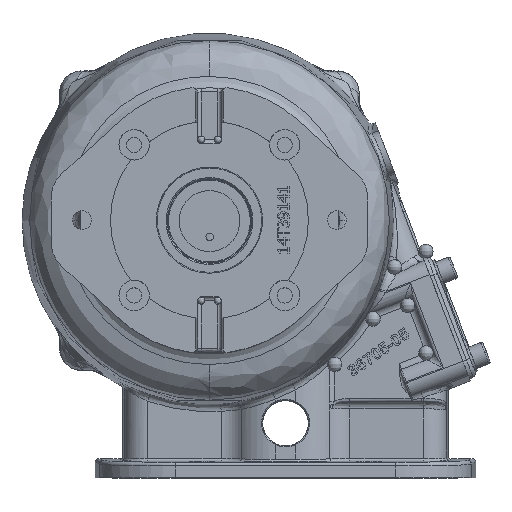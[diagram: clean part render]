
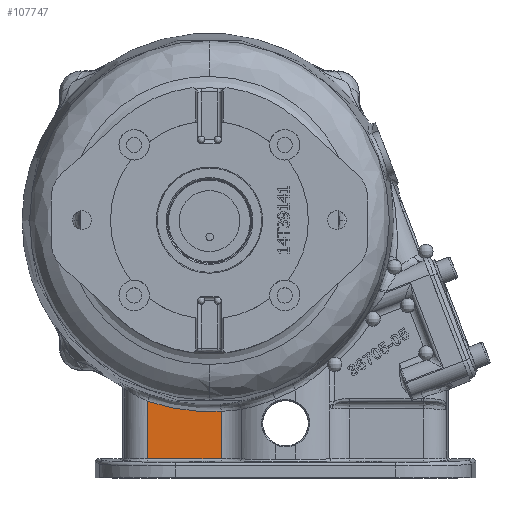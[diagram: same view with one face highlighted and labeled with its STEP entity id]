
A CAD part, top view. The second image highlights one B-rep face of the part: STEP entity #107747.
In plain terms, the highlighted planar face has unit normal (0, 0, 1).
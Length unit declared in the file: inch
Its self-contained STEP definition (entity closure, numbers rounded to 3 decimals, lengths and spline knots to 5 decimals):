
#3252 = EDGE_CURVE ( 'NONE', #27491, #96114, #20985, .T. ) ;
#5675 = CARTESIAN_POINT ( 'NONE',  ( -1.79703, 0.23792, 1.63 ) ) ;
#7178 = CARTESIAN_POINT ( 'NONE',  ( -1.92265, 0.26353, 1.63 ) ) ;
#14381 = DIRECTION ( 'NONE',  ( -1., 0., 0. ) ) ;
#17235 = CARTESIAN_POINT ( 'NONE',  ( -1.33818, 0.19185, 1.63 ) ) ;
#17577 = DIRECTION ( 'NONE',  ( 0., 0., -1. ) ) ;
#18724 = CARTESIAN_POINT ( 'NONE',  ( -1.96025, 0.27202, 1.63 ) ) ;
#19484 = CARTESIAN_POINT ( 'NONE',  ( -2.26681, 0.35989, 1.63 ) ) ;
#20985 = B_SPLINE_CURVE_WITH_KNOTS ( 'NONE', 3,
 ( #36474, #112554, #31773, #100263, #31011, #17235, #77177, #42542, #53338, #135679, #5675, #75686, #7178, #52596, #18724, #65638, #123386, #19484 ),
 .UNSPECIFIED., .F., .F.,
 ( 4, 1, 1, 2, 2, 2, 1, 1, 2, 2, 4 ),
 ( 0., 0.125, 0.1875, 0.21875, 0.25, 0.5, 0.625, 0.6875, 0.71875, 0.75, 1. ),
 .UNSPECIFIED. ) ;
#21646 = CARTESIAN_POINT ( 'NONE',  ( -2.26681, -0.58422, 1.63 ) ) ;
#24747 = DIRECTION ( 'NONE',  ( 0., 1., 0. ) ) ;
#27491 = VERTEX_POINT ( 'NONE', #120603 ) ;
#29123 = CARTESIAN_POINT ( 'NONE',  ( 0.56765, 0.95673, 1.63 ) ) ;
#29182 = VECTOR ( 'NONE', #24747, 39.37008 ) ;
#31011 = CARTESIAN_POINT ( 'NONE',  ( -1.31266, 0.19124, 1.63 ) ) ;
#31773 = CARTESIAN_POINT ( 'NONE',  ( -1.18509, 0.19058, 1.63 ) ) ;
#34761 = LINE ( 'NONE', #140893, #29182 ) ;
#36247 = LINE ( 'NONE', #128617, #150188 ) ;
#36474 = CARTESIAN_POINT ( 'NONE',  ( -1.05758, 0.19654, 1.63 ) ) ;
#41379 = DIRECTION ( 'NONE',  ( -1., 0., 0. ) ) ;
#41956 = EDGE_LOOP ( 'NONE', ( #45198, #90609, #66846, #75310 ) ) ;
#42542 = CARTESIAN_POINT ( 'NONE',  ( -1.46629, 0.19642, 1.63 ) ) ;
#45198 = ORIENTED_EDGE ( 'NONE', *, *, #3252, .T. ) ;
#52596 = CARTESIAN_POINT ( 'NONE',  ( -1.94768, 0.26913, 1.63 ) ) ;
#53338 = CARTESIAN_POINT ( 'NONE',  ( -1.56849, 0.20515, 1.63 ) ) ;
#65638 = CARTESIAN_POINT ( 'NONE',  ( -2.07208, 0.29848, 1.63 ) ) ;
#66101 = EDGE_CURVE ( 'NONE', #75603, #96114, #36247, .T. ) ;
#66846 = ORIENTED_EDGE ( 'NONE', *, *, #124368, .F. ) ;
#75310 = ORIENTED_EDGE ( 'NONE', *, *, #122917, .T. ) ;
#75603 = VERTEX_POINT ( 'NONE', #21646 ) ;
#75686 = CARTESIAN_POINT ( 'NONE',  ( -1.88505, 0.25536, 1.63 ) ) ;
#77177 = CARTESIAN_POINT ( 'NONE',  ( -1.35089, 0.19223, 1.63 ) ) ;
#87579 = FACE_OUTER_BOUND ( 'NONE', #41956, .T. ) ;
#90609 = ORIENTED_EDGE ( 'NONE', *, *, #66101, .F. ) ;
#95135 = VERTEX_POINT ( 'NONE', #135626 ) ;
#95931 = LINE ( 'NONE', #129809, #149599 ) ;
#96114 = VERTEX_POINT ( 'NONE', #127053 ) ;
#99115 = PLANE ( 'NONE',  #145545 ) ;
#100263 = CARTESIAN_POINT ( 'NONE',  ( -1.27438, 0.19055, 1.63 ) ) ;
#107747 = ADVANCED_FACE ( 'NONE', ( #87579 ), #99115, .F. ) ;
#112554 = CARTESIAN_POINT ( 'NONE',  ( -1.10858, 0.19341, 1.63 ) ) ;
#120603 = CARTESIAN_POINT ( 'NONE',  ( -1.05758, 0.19654, 1.63 ) ) ;
#122917 = EDGE_CURVE ( 'NONE', #95135, #27491, #34761, .T. ) ;
#123386 = CARTESIAN_POINT ( 'NONE',  ( -2.17013, 0.32679, 1.63 ) ) ;
#124368 = EDGE_CURVE ( 'NONE', #95135, #75603, #95931, .T. ) ;
#127053 = CARTESIAN_POINT ( 'NONE',  ( -2.26681, 0.35989, 1.63 ) ) ;
#128617 = CARTESIAN_POINT ( 'NONE',  ( -2.26681, 0.78184, 1.63 ) ) ;
#129809 = CARTESIAN_POINT ( 'NONE',  ( 0.28382, -0.58422, 1.63 ) ) ;
#135626 = CARTESIAN_POINT ( 'NONE',  ( -1.05758, -0.58422, 1.63001 ) ) ;
#135679 = CARTESIAN_POINT ( 'NONE',  ( -1.72107, 0.22576, 1.63 ) ) ;
#140138 = DIRECTION ( 'NONE',  ( 0., 1., 0. ) ) ;
#140893 = CARTESIAN_POINT ( 'NONE',  ( -1.05758, 0.95673, 1.63 ) ) ;
#145545 = AXIS2_PLACEMENT_3D ( 'NONE', #29123, #17577, #41379 ) ;
#149599 = VECTOR ( 'NONE', #14381, 39.37008 ) ;
#150188 = VECTOR ( 'NONE', #140138, 39.37008 ) ;
